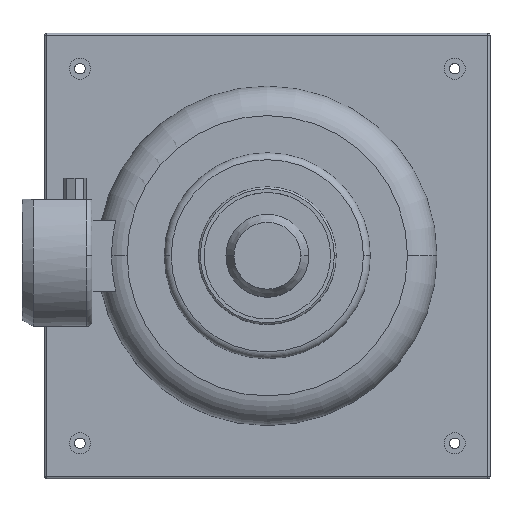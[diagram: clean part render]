
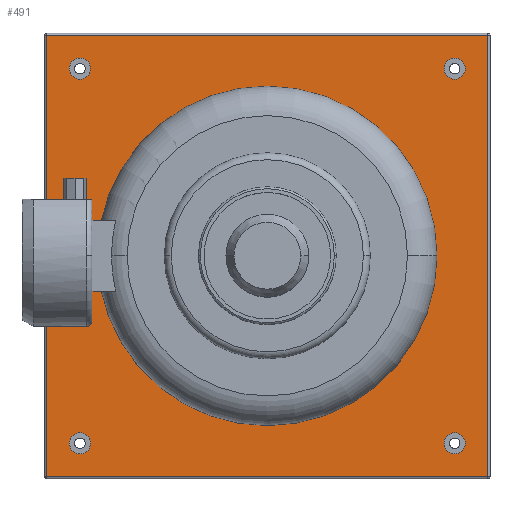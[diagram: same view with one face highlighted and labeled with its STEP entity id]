
A CAD part, top view. The second image highlights one B-rep face of the part: STEP entity #491.
In plain terms, the highlighted planar face has unit normal (0, 0, 1).
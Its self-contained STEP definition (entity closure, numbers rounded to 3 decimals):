
#491=ADVANCED_FACE('',(#1017,#1018,#1019,#1020,#1021,#1022),#1023,.T.);
#1017=FACE_BOUND('',#1544,.T.);
#1018=FACE_BOUND('',#1545,.T.);
#1019=FACE_BOUND('',#1546,.T.);
#1020=FACE_BOUND('',#1547,.T.);
#1021=FACE_BOUND('',#1548,.T.);
#1022=FACE_OUTER_BOUND('',#1549,.T.);
#1023=PLANE('',#1550);
#1544=EDGE_LOOP('',(#2966,#2967));
#1545=EDGE_LOOP('',(#2968,#2969));
#1546=EDGE_LOOP('',(#2970,#2971));
#1547=EDGE_LOOP('',(#2972,#2973));
#1548=EDGE_LOOP('',(#2974,#2975));
#1549=EDGE_LOOP('',(#2976,#2977,#2978,#2979));
#1550=AXIS2_PLACEMENT_3D('',#2980,#2981,#2982);
#2966=ORIENTED_EDGE('',*,*,#3105,.T.);
#2967=ORIENTED_EDGE('',*,*,#3200,.T.);
#2968=ORIENTED_EDGE('',*,*,#3036,.T.);
#2969=ORIENTED_EDGE('',*,*,#3464,.T.);
#2970=ORIENTED_EDGE('',*,*,#3026,.T.);
#2971=ORIENTED_EDGE('',*,*,#3471,.T.);
#2972=ORIENTED_EDGE('',*,*,#3016,.T.);
#2973=ORIENTED_EDGE('',*,*,#3478,.T.);
#2974=ORIENTED_EDGE('',*,*,#3006,.T.);
#2975=ORIENTED_EDGE('',*,*,#3485,.T.);
#2976=ORIENTED_EDGE('',*,*,#3557,.F.);
#2977=ORIENTED_EDGE('',*,*,#3497,.F.);
#2978=ORIENTED_EDGE('',*,*,#3559,.T.);
#2979=ORIENTED_EDGE('',*,*,#3542,.T.);
#2980=CARTESIAN_POINT('',(0.0,0.0,-55.5));
#2981=DIRECTION('',(0.0,-0.0,1.0));
#2982=DIRECTION('',(0.,1.0,0.0));
#3006=EDGE_CURVE('',#3575,#3572,#3576,.T.);
#3016=EDGE_CURVE('',#3593,#3590,#3594,.T.);
#3026=EDGE_CURVE('',#3611,#3608,#3612,.T.);
#3036=EDGE_CURVE('',#3629,#3626,#3630,.T.);
#3105=EDGE_CURVE('',#3750,#3747,#3751,.T.);
#3200=EDGE_CURVE('',#3747,#3750,#3891,.T.);
#3464=EDGE_CURVE('',#3626,#3629,#4267,.T.);
#3471=EDGE_CURVE('',#3608,#3611,#4274,.T.);
#3478=EDGE_CURVE('',#3590,#3593,#4281,.T.);
#3485=EDGE_CURVE('',#3572,#3575,#4288,.T.);
#3497=EDGE_CURVE('',#4292,#4305,#4306,.T.);
#3542=EDGE_CURVE('',#4365,#4324,#4369,.T.);
#3557=EDGE_CURVE('',#4305,#4324,#4384,.T.);
#3559=EDGE_CURVE('',#4292,#4365,#4386,.T.);
#3572=VERTEX_POINT('',#4401);
#3575=VERTEX_POINT('',#4405);
#3576=CIRCLE('',#4406,7.5);
#3590=VERTEX_POINT('',#4423);
#3593=VERTEX_POINT('',#4427);
#3594=CIRCLE('',#4428,7.5);
#3608=VERTEX_POINT('',#4445);
#3611=VERTEX_POINT('',#4449);
#3612=CIRCLE('',#4450,7.5);
#3626=VERTEX_POINT('',#4467);
#3629=VERTEX_POINT('',#4471);
#3630=CIRCLE('',#4472,7.5);
#3747=VERTEX_POINT('',#4604);
#3750=VERTEX_POINT('',#4608);
#3751=CIRCLE('',#4609,120.0);
#3891=CIRCLE('',#4949,120.0);
#4267=CIRCLE('',#5493,7.5);
#4274=CIRCLE('',#5500,7.5);
#4281=CIRCLE('',#5507,7.5);
#4288=CIRCLE('',#5514,7.5);
#4292=VERTEX_POINT('',#5518);
#4305=VERTEX_POINT('',#5533);
#4306=LINE('',#5534,#5535);
#4324=VERTEX_POINT('',#5556);
#4365=VERTEX_POINT('',#5605);
#4369=LINE('',#5609,#5610);
#4384=LINE('',#5632,#5633);
#4386=LINE('',#5635,#5636);
#4401=CARTESIAN_POINT('',(-132.5,140.0,-55.5));
#4405=CARTESIAN_POINT('',(-132.5,125.0,-55.5));
#4406=AXIS2_PLACEMENT_3D('',#5648,#5649,#5650);
#4423=CARTESIAN_POINT('',(-132.5,-125.0,-55.5));
#4427=CARTESIAN_POINT('',(-132.5,-140.0,-55.5));
#4428=AXIS2_PLACEMENT_3D('',#5664,#5665,#5666);
#4445=CARTESIAN_POINT('',(132.5,-125.0,-55.5));
#4449=CARTESIAN_POINT('',(132.5,-140.0,-55.5));
#4450=AXIS2_PLACEMENT_3D('',#5680,#5681,#5682);
#4467=CARTESIAN_POINT('',(132.5,140.0,-55.5));
#4471=CARTESIAN_POINT('',(132.5,125.0,-55.5));
#4472=AXIS2_PLACEMENT_3D('',#5696,#5697,#5698);
#4604=CARTESIAN_POINT('',(0.,120.0,-55.5));
#4608=CARTESIAN_POINT('',(0.,-120.0,-55.5));
#4609=AXIS2_PLACEMENT_3D('',#5835,#5836,#5837);
#4949=AXIS2_PLACEMENT_3D('',#5951,#5952,#5953);
#5493=AXIS2_PLACEMENT_3D('',#6179,#6180,#6181);
#5500=AXIS2_PLACEMENT_3D('',#6191,#6192,#6193);
#5507=AXIS2_PLACEMENT_3D('',#6203,#6204,#6205);
#5514=AXIS2_PLACEMENT_3D('',#6215,#6216,#6217);
#5518=CARTESIAN_POINT('',(156.0,156.0,-55.5));
#5533=CARTESIAN_POINT('',(156.0,-156.0,-55.5));
#5534=CARTESIAN_POINT('',(156.0,0.,-55.5));
#5535=VECTOR('',#6235,1.0);
#5556=CARTESIAN_POINT('',(-156.0,-156.0,-55.5));
#5605=CARTESIAN_POINT('',(-156.0,156.0,-55.5));
#5609=CARTESIAN_POINT('',(-156.0,0.,-55.5));
#5610=VECTOR('',#6307,1.0);
#5632=CARTESIAN_POINT('',(0.,-156.0,-55.5));
#5633=VECTOR('',#6315,1.0);
#5635=CARTESIAN_POINT('',(0.,156.0,-55.5));
#5636=VECTOR('',#6316,1.0);
#5648=CARTESIAN_POINT('',(-132.5,132.5,-55.5));
#5649=DIRECTION('',(0.0,0.0,-1.0));
#5650=DIRECTION('',(0.,1.0,0.0));
#5664=CARTESIAN_POINT('',(-132.5,-132.5,-55.5));
#5665=DIRECTION('',(0.0,0.0,-1.0));
#5666=DIRECTION('',(0.,1.0,0.0));
#5680=CARTESIAN_POINT('',(132.5,-132.5,-55.5));
#5681=DIRECTION('',(0.0,0.0,-1.0));
#5682=DIRECTION('',(0.,1.0,0.0));
#5696=CARTESIAN_POINT('',(132.5,132.5,-55.5));
#5697=DIRECTION('',(0.0,0.0,-1.0));
#5698=DIRECTION('',(0.,1.0,0.0));
#5835=CARTESIAN_POINT('',(0.0,0.0,-55.5));
#5836=DIRECTION('',(0.0,0.0,-1.0));
#5837=DIRECTION('',(0.,1.0,0.0));
#5951=CARTESIAN_POINT('',(0.0,0.0,-55.5));
#5952=DIRECTION('',(0.0,0.0,-1.0));
#5953=DIRECTION('',(0.,1.0,0.0));
#6179=CARTESIAN_POINT('',(132.5,132.5,-55.5));
#6180=DIRECTION('',(0.0,0.0,-1.0));
#6181=DIRECTION('',(0.,1.0,0.0));
#6191=CARTESIAN_POINT('',(132.5,-132.5,-55.5));
#6192=DIRECTION('',(0.0,0.0,-1.0));
#6193=DIRECTION('',(0.,1.0,0.0));
#6203=CARTESIAN_POINT('',(-132.5,-132.5,-55.5));
#6204=DIRECTION('',(0.0,0.0,-1.0));
#6205=DIRECTION('',(0.,1.0,0.0));
#6215=CARTESIAN_POINT('',(-132.5,132.5,-55.5));
#6216=DIRECTION('',(0.0,0.0,-1.0));
#6217=DIRECTION('',(0.,1.0,0.0));
#6235=DIRECTION('',(0.,-1.0,0.));
#6307=DIRECTION('',(0.,-1.0,0.));
#6315=DIRECTION('',(-1.0,0.,0.));
#6316=DIRECTION('',(-1.0,0.,0.));
